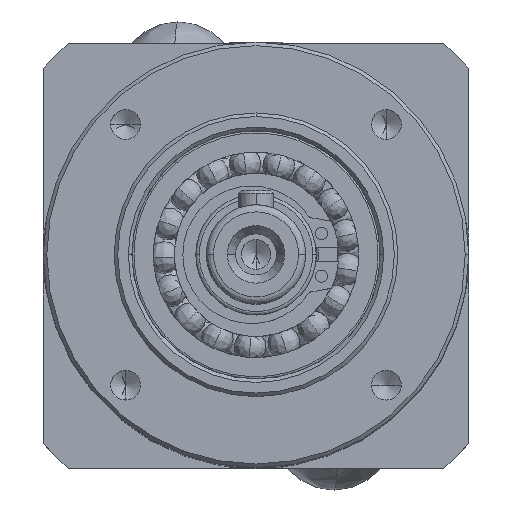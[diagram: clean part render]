
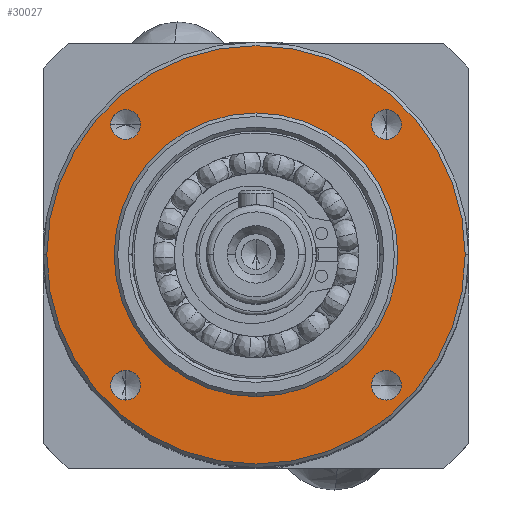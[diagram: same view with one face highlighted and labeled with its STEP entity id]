
A CAD part, top view. The second image highlights one B-rep face of the part: STEP entity #30027.
In plain terms, the highlighted planar face has unit normal (0, 0, 1) as drawn and (1, 0, 0) by its records, which use the part's own axes.
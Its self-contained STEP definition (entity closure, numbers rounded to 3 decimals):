
#345 = FACE_BOUND ( 'NONE', #27788, .T. ) ;
#865 = AXIS2_PLACEMENT_3D ( 'NONE', #14269, #35896, #17373 ) ;
#1339 = DIRECTION ( 'NONE',  ( 0., 1., 0. ) ) ;
#2452 = ORIENTED_EDGE ( 'NONE', *, *, #3848, .F. ) ;
#2616 = CIRCLE ( 'NONE', #9183, 29.5 ) ;
#3158 = ORIENTED_EDGE ( 'NONE', *, *, #33262, .F. ) ;
#3848 = EDGE_CURVE ( 'NONE', #27180, #27692, #27556, .T. ) ;
#4077 = EDGE_CURVE ( 'NONE', #26107, #22497, #6431, .T. ) ;
#4496 = EDGE_CURVE ( 'NONE', #20475, #18974, #15033, .T. ) ;
#4539 = CARTESIAN_POINT ( 'NONE',  ( 25., -18.385, 18.385 ) ) ;
#4673 = EDGE_CURVE ( 'NONE', #16496, #26824, #33870, .T. ) ;
#4777 = EDGE_CURVE ( 'NONE', #20261, #14839, #10247, .T. ) ;
#4897 = EDGE_CURVE ( 'NONE', #29400, #6199, #2616, .T. ) ;
#5219 = CIRCLE ( 'NONE', #32314, 2.1 ) ;
#5556 = ORIENTED_EDGE ( 'NONE', *, *, #36198, .F. ) ;
#6199 = VERTEX_POINT ( 'NONE', #37793 ) ;
#6431 = CIRCLE ( 'NONE', #7388, 2.1 ) ;
#6508 = ORIENTED_EDGE ( 'NONE', *, *, #4777, .F. ) ;
#7057 = CARTESIAN_POINT ( 'NONE',  ( 25., 18.385, 18.385 ) ) ;
#7388 = AXIS2_PLACEMENT_3D ( 'NONE', #18194, #12779, #35642 ) ;
#7603 = DIRECTION ( 'NONE',  ( 0., 1., 0. ) ) ;
#7947 = CARTESIAN_POINT ( 'NONE',  ( 25., -18.385, -18.385 ) ) ;
#8481 = FACE_BOUND ( 'NONE', #28256, .T. ) ;
#9183 = AXIS2_PLACEMENT_3D ( 'NONE', #19720, #19898, #19907 ) ;
#9425 = FACE_BOUND ( 'NONE', #27192, .T. ) ;
#9960 = AXIS2_PLACEMENT_3D ( 'NONE', #14888, #14924, #14933 ) ;
#10134 = DIRECTION ( 'NONE',  ( 0., 0., -1. ) ) ;
#10208 = CARTESIAN_POINT ( 'NONE',  ( 25., 18.385, 18.385 ) ) ;
#10247 = CIRCLE ( 'NONE', #24269, 20. ) ;
#10321 = CARTESIAN_POINT ( 'NONE',  ( 25., -18.385, -18.385 ) ) ;
#10328 = DIRECTION ( 'NONE',  ( 1., 0., 0. ) ) ;
#10416 = DIRECTION ( 'NONE',  ( 0., 0., -1. ) ) ;
#10925 = DIRECTION ( 'NONE',  ( 1., 0., 0. ) ) ;
#10960 = DIRECTION ( 'NONE',  ( 0., 0., -1. ) ) ;
#11024 = DIRECTION ( 'NONE',  ( 0., 0., -1. ) ) ;
#11295 = ORIENTED_EDGE ( 'NONE', *, *, #37217, .F. ) ;
#11673 = CARTESIAN_POINT ( 'NONE',  ( 25., 18.385, 20.485 ) ) ;
#12109 = CARTESIAN_POINT ( 'NONE',  ( 25., 18.385, 16.285 ) ) ;
#12374 = CIRCLE ( 'NONE', #37528, 2.1 ) ;
#12738 = AXIS2_PLACEMENT_3D ( 'NONE', #10321, #10328, #10416 ) ;
#12779 = DIRECTION ( 'NONE',  ( 1., 0., 0. ) ) ;
#13064 = CARTESIAN_POINT ( 'NONE',  ( 25., 16.285, -18.385 ) ) ;
#13770 = ORIENTED_EDGE ( 'NONE', *, *, #35184, .F. ) ;
#14269 = CARTESIAN_POINT ( 'NONE',  ( 25., 0., 0. ) ) ;
#14324 = CIRCLE ( 'NONE', #24169, 2.1 ) ;
#14333 = CARTESIAN_POINT ( 'NONE',  ( 25., -16.285, 18.385 ) ) ;
#14390 = CARTESIAN_POINT ( 'NONE',  ( 25., -29.854, -29.854 ) ) ;
#14839 = VERTEX_POINT ( 'NONE', #37347 ) ;
#14888 = CARTESIAN_POINT ( 'NONE',  ( 25., 18.385, -18.385 ) ) ;
#14924 = DIRECTION ( 'NONE',  ( 1., 0., 0. ) ) ;
#14933 = DIRECTION ( 'NONE',  ( 0., 1., 0. ) ) ;
#15033 = CIRCLE ( 'NONE', #12738, 2.1 ) ;
#15281 = CARTESIAN_POINT ( 'NONE',  ( 25., 0., 20. ) ) ;
#15630 = CARTESIAN_POINT ( 'NONE',  ( 25., -20.485, 18.385 ) ) ;
#16088 = DIRECTION ( 'NONE',  ( 1., 0., 0. ) ) ;
#16496 = VERTEX_POINT ( 'NONE', #19606 ) ;
#17199 = CARTESIAN_POINT ( 'NONE',  ( 25., 0., 0. ) ) ;
#17239 = DIRECTION ( 'NONE',  ( 1., 0., 0. ) ) ;
#17246 = DIRECTION ( 'NONE',  ( 0., 0., 1. ) ) ;
#17269 = CIRCLE ( 'NONE', #20345, 2.1 ) ;
#17373 = DIRECTION ( 'NONE',  ( 0., 0., 1. ) ) ;
#17486 = PLANE ( 'NONE',  #25046 ) ;
#18194 = CARTESIAN_POINT ( 'NONE',  ( 25., -18.385, 18.385 ) ) ;
#18974 = VERTEX_POINT ( 'NONE', #32506 ) ;
#19606 = CARTESIAN_POINT ( 'NONE',  ( 25., 20.485, -18.385 ) ) ;
#19623 = DIRECTION ( 'NONE',  ( 1., 0., 0. ) ) ;
#19720 = CARTESIAN_POINT ( 'NONE',  ( 25., 0., 0. ) ) ;
#19898 = DIRECTION ( 'NONE',  ( 1., 0., 0. ) ) ;
#19907 = DIRECTION ( 'NONE',  ( 0., 0., 1. ) ) ;
#20223 = CARTESIAN_POINT ( 'NONE',  ( 25., -18.385, -20.485 ) ) ;
#20261 = VERTEX_POINT ( 'NONE', #15281 ) ;
#20345 = AXIS2_PLACEMENT_3D ( 'NONE', #38125, #19623, #1339 ) ;
#20475 = VERTEX_POINT ( 'NONE', #20223 ) ;
#22497 = VERTEX_POINT ( 'NONE', #15630 ) ;
#22817 = ORIENTED_EDGE ( 'NONE', *, *, #30819, .T. ) ;
#23761 = FACE_OUTER_BOUND ( 'NONE', #24803, .T. ) ;
#24169 = AXIS2_PLACEMENT_3D ( 'NONE', #7947, #29438, #11024 ) ;
#24269 = AXIS2_PLACEMENT_3D ( 'NONE', #17199, #17239, #17246 ) ;
#24454 = ORIENTED_EDGE ( 'NONE', *, *, #4496, .F. ) ;
#24803 = EDGE_LOOP ( 'NONE', ( #25673, #22817 ) ) ;
#25046 = AXIS2_PLACEMENT_3D ( 'NONE', #14390, #29482, #39015 ) ;
#25088 = EDGE_LOOP ( 'NONE', ( #6508, #3158 ) ) ;
#25129 = EDGE_LOOP ( 'NONE', ( #2452, #11295 ) ) ;
#25673 = ORIENTED_EDGE ( 'NONE', *, *, #4897, .T. ) ;
#25897 = DIRECTION ( 'NONE',  ( 1., 0., 0. ) ) ;
#26107 = VERTEX_POINT ( 'NONE', #14333 ) ;
#26824 = VERTEX_POINT ( 'NONE', #13064 ) ;
#27180 = VERTEX_POINT ( 'NONE', #12109 ) ;
#27192 = EDGE_LOOP ( 'NONE', ( #30690, #5556 ) ) ;
#27556 = CIRCLE ( 'NONE', #37797, 2.1 ) ;
#27692 = VERTEX_POINT ( 'NONE', #11673 ) ;
#27788 = EDGE_LOOP ( 'NONE', ( #33566, #29167 ) ) ;
#28256 = EDGE_LOOP ( 'NONE', ( #24454, #13770 ) ) ;
#28529 = DIRECTION ( 'NONE',  ( 1., 0., 0. ) ) ;
#29167 = ORIENTED_EDGE ( 'NONE', *, *, #34480, .F. ) ;
#29400 = VERTEX_POINT ( 'NONE', #38298 ) ;
#29438 = DIRECTION ( 'NONE',  ( 1., 0., 0. ) ) ;
#29482 = DIRECTION ( 'NONE',  ( -1., 0., 0. ) ) ;
#30027 = ADVANCED_FACE ( 'NONE', ( #33031, #345, #8481, #9425, #32046, #23761 ), #17486, .F. ) ;
#30690 = ORIENTED_EDGE ( 'NONE', *, *, #4077, .F. ) ;
#30819 = EDGE_CURVE ( 'NONE', #6199, #29400, #35439, .T. ) ;
#32046 = FACE_BOUND ( 'NONE', #25129, .T. ) ;
#32314 = AXIS2_PLACEMENT_3D ( 'NONE', #4539, #25897, #7603 ) ;
#32506 = CARTESIAN_POINT ( 'NONE',  ( 25., -18.385, -16.285 ) ) ;
#33031 = FACE_BOUND ( 'NONE', #25088, .T. ) ;
#33262 = EDGE_CURVE ( 'NONE', #14839, #20261, #35217, .T. ) ;
#33566 = ORIENTED_EDGE ( 'NONE', *, *, #4673, .F. ) ;
#33870 = CIRCLE ( 'NONE', #9960, 2.1 ) ;
#34480 = EDGE_CURVE ( 'NONE', #26824, #16496, #17269, .T. ) ;
#34590 = CARTESIAN_POINT ( 'NONE',  ( 25., 0., 0. ) ) ;
#35184 = EDGE_CURVE ( 'NONE', #18974, #20475, #14324, .T. ) ;
#35217 = CIRCLE ( 'NONE', #865, 20. ) ;
#35439 = CIRCLE ( 'NONE', #37359, 29.5 ) ;
#35642 = DIRECTION ( 'NONE',  ( 0., 1., 0. ) ) ;
#35896 = DIRECTION ( 'NONE',  ( 1., 0., 0. ) ) ;
#36198 = EDGE_CURVE ( 'NONE', #22497, #26107, #5219, .T. ) ;
#37217 = EDGE_CURVE ( 'NONE', #27692, #27180, #12374, .T. ) ;
#37347 = CARTESIAN_POINT ( 'NONE',  ( 25., 0., -20. ) ) ;
#37359 = AXIS2_PLACEMENT_3D ( 'NONE', #34590, #16088, #37650 ) ;
#37528 = AXIS2_PLACEMENT_3D ( 'NONE', #7057, #28529, #10134 ) ;
#37650 = DIRECTION ( 'NONE',  ( 0., 0., 1. ) ) ;
#37793 = CARTESIAN_POINT ( 'NONE',  ( 25., 0., -29.5 ) ) ;
#37797 = AXIS2_PLACEMENT_3D ( 'NONE', #10208, #10925, #10960 ) ;
#38125 = CARTESIAN_POINT ( 'NONE',  ( 25., 18.385, -18.385 ) ) ;
#38298 = CARTESIAN_POINT ( 'NONE',  ( 25., 0., 29.5 ) ) ;
#39015 = DIRECTION ( 'NONE',  ( 0., 0., 1. ) ) ;
